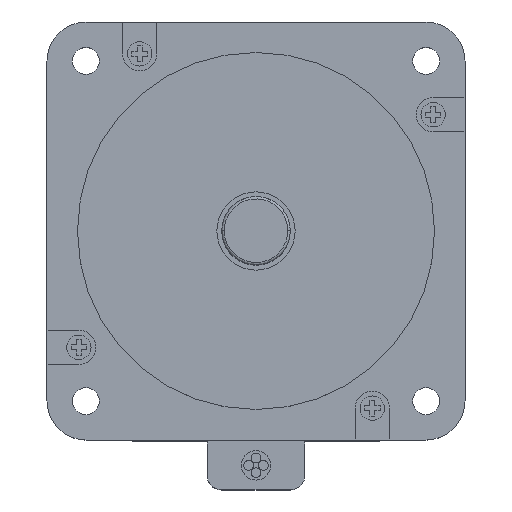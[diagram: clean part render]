
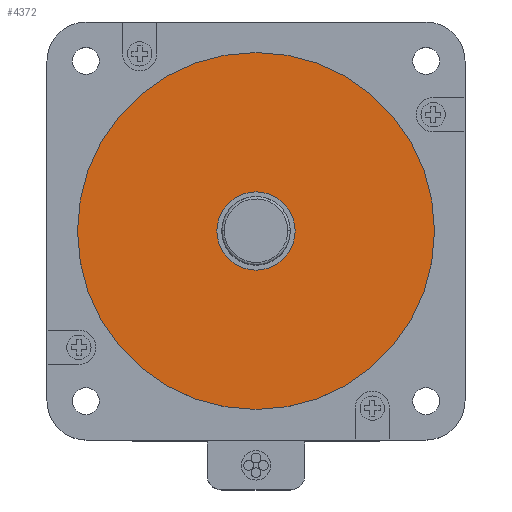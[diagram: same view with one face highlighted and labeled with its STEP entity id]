
A CAD part, top view. The second image highlights one B-rep face of the part: STEP entity #4372.
In plain terms, the highlighted planar face has unit normal (0, 0, 1).
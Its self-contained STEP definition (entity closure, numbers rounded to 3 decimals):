
#26 = DIRECTION ( 'NONE',  ( -1., 0., 0. ) ) ;
#104 = VERTEX_POINT ( 'NONE', #2649 ) ;
#114 = DIRECTION ( 'NONE',  ( -1., 0., 0. ) ) ;
#142 = ORIENTED_EDGE ( 'NONE', *, *, #5137, .T. ) ;
#246 = DIRECTION ( 'NONE',  ( 0., 0., 1. ) ) ;
#316 = CARTESIAN_POINT ( 'NONE',  ( 0., 0., 2. ) ) ;
#323 = DIRECTION ( 'NONE',  ( -1., 0., 0. ) ) ;
#429 = VERTEX_POINT ( 'NONE', #5718 ) ;
#835 = PLANE ( 'NONE',  #1571 ) ;
#844 = VERTEX_POINT ( 'NONE', #4586 ) ;
#960 = DIRECTION ( 'NONE',  ( -1., 0., 0. ) ) ;
#1195 = VERTEX_POINT ( 'NONE', #2913 ) ;
#1413 = EDGE_CURVE ( 'NONE', #104, #844, #4111, .T. ) ;
#1414 = DIRECTION ( 'NONE',  ( 0., 0., -1. ) ) ;
#1571 = AXIS2_PLACEMENT_3D ( 'NONE', #316, #246, #2950 ) ;
#1579 = ORIENTED_EDGE ( 'NONE', *, *, #1413, .T. ) ;
#1692 = ORIENTED_EDGE ( 'NONE', *, *, #2600, .F. ) ;
#1824 = AXIS2_PLACEMENT_3D ( 'NONE', #3312, #6492, #114 ) ;
#1898 = CIRCLE ( 'NONE', #3849, 36.513 ) ;
#2016 = EDGE_CURVE ( 'NONE', #429, #1195, #1898, .T. ) ;
#2254 = DIRECTION ( 'NONE',  ( 0., 0., -1. ) ) ;
#2539 = CIRCLE ( 'NONE', #6437, 8. ) ;
#2551 = FACE_BOUND ( 'NONE', #3075, .T. ) ;
#2600 = EDGE_CURVE ( 'NONE', #1195, #429, #3096, .T. ) ;
#2649 = CARTESIAN_POINT ( 'NONE',  ( 8., 0., 2. ) ) ;
#2913 = CARTESIAN_POINT ( 'NONE',  ( 36.513, 0., 2. ) ) ;
#2950 = DIRECTION ( 'NONE',  ( 1., 0., 0. ) ) ;
#3075 = EDGE_LOOP ( 'NONE', ( #142, #1579 ) ) ;
#3096 = CIRCLE ( 'NONE', #1824, 36.513 ) ;
#3312 = CARTESIAN_POINT ( 'NONE',  ( 0., 0., 2. ) ) ;
#3328 = ORIENTED_EDGE ( 'NONE', *, *, #2016, .F. ) ;
#3396 = AXIS2_PLACEMENT_3D ( 'NONE', #6697, #1414, #323 ) ;
#3576 = CARTESIAN_POINT ( 'NONE',  ( 0., 0., 2. ) ) ;
#3849 = AXIS2_PLACEMENT_3D ( 'NONE', #3576, #4083, #960 ) ;
#4083 = DIRECTION ( 'NONE',  ( 0., 0., -1. ) ) ;
#4111 = CIRCLE ( 'NONE', #3396, 8. ) ;
#4372 = ADVANCED_FACE ( 'NONE', ( #2551, #4445 ), #835, .T. ) ;
#4445 = FACE_OUTER_BOUND ( 'NONE', #6731, .T. ) ;
#4586 = CARTESIAN_POINT ( 'NONE',  ( -8., 0., 2. ) ) ;
#5137 = EDGE_CURVE ( 'NONE', #844, #104, #2539, .T. ) ;
#5428 = CARTESIAN_POINT ( 'NONE',  ( 0., 0., 2. ) ) ;
#5718 = CARTESIAN_POINT ( 'NONE',  ( -36.513, 0., 2. ) ) ;
#6437 = AXIS2_PLACEMENT_3D ( 'NONE', #5428, #2254, #26 ) ;
#6492 = DIRECTION ( 'NONE',  ( 0., 0., -1. ) ) ;
#6697 = CARTESIAN_POINT ( 'NONE',  ( 0., 0., 2. ) ) ;
#6731 = EDGE_LOOP ( 'NONE', ( #3328, #1692 ) ) ;
